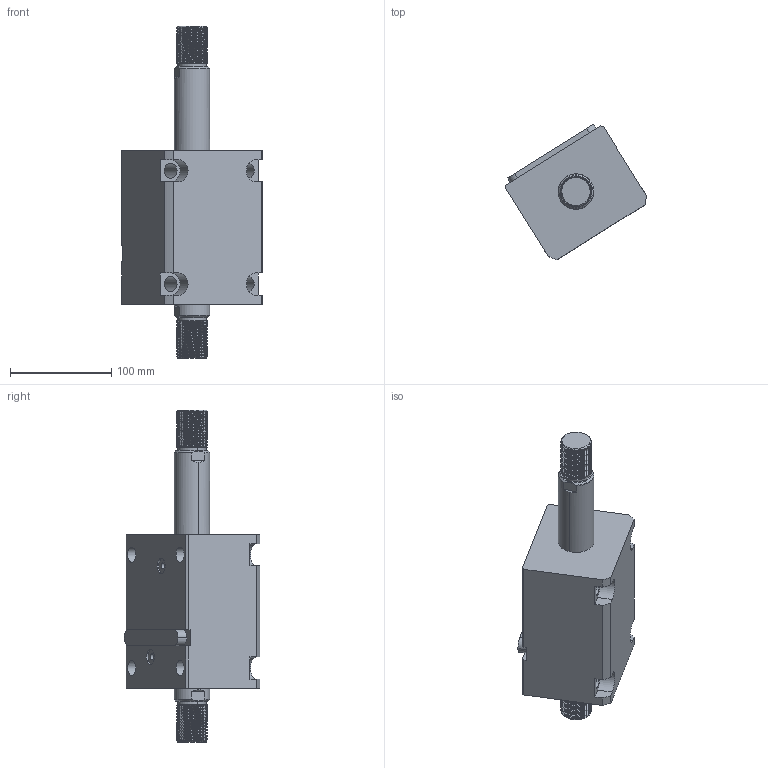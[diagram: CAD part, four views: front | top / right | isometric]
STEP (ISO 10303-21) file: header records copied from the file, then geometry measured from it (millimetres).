
FILE_DESCRIPTION (( 'STEP AP214' ), '1' );
FILE_NAME ('chtb-lwm63x70w_asm.STEP', '2018-05-22T01:43:43', ( 'Windows' ), ( 'Microsoft' ), 'SwSTEP 2.0', 'SolidWorks 2015', '' );
FILE_SCHEMA (( 'AUTOMOTIVE_DESIGN' ));
Length unit declared in the file: millimetre
Products named in the file (5): chtb-lwm63x70w_asm; CHTB-SW63X70WHSG; CHTB-LWM63X70NBT; CHTB-LA63PJ; CHTB-63QG
Assembly tree (4 placements, depth 2):
  chtb-lwm63x70w_asm
    CHTB-63QG
    CHTB-LA63PJ
    CHTB-LWM63X70NBT
    CHTB-SW63X70WHSG
Bounding box: 138.83 x 133.8 x 328 mm (x, y, z)
Volume: 1458889.1 mm3; surface area: 196538.9 mm2
Topology: 4 solids, 4 shells, 298 faces, 869 edges, 587 vertices
Faces by surface type: cylinder 203, plane 55, bspline 16, cone 12, torus 12
Entity records: 27660 total; most frequent: CARTESIAN_POINT 20506, ORIENTED_EDGE 1730, DIRECTION 1186, EDGE_CURVE 865, VERTEX_POINT 587, AXIS2_PLACEMENT_3D 440, EDGE_LOOP 326, LINE 306
